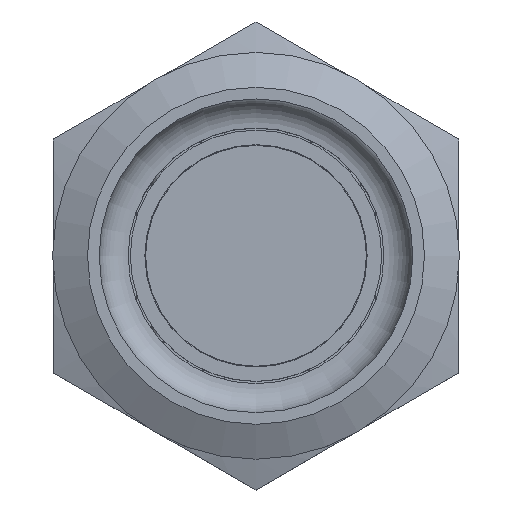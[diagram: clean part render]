
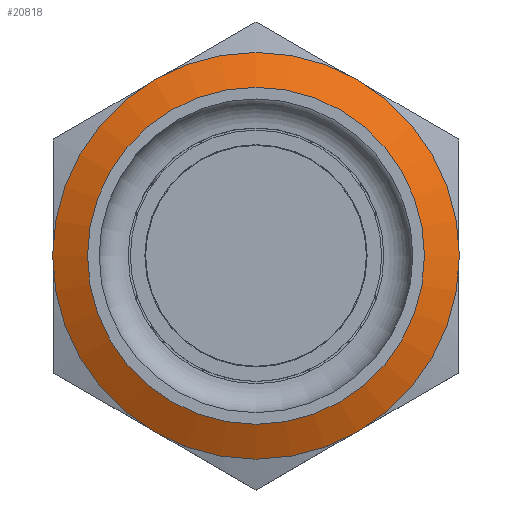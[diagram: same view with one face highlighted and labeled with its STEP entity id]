
A CAD part, top view. The second image highlights one B-rep face of the part: STEP entity #20818.
In plain terms, the highlighted conical face has half-angle 63.435 degrees and reference radius 14 mm.
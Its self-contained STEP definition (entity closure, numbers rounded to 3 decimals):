
#738=CONICAL_SURFACE('',#24222,14.,63.435);
#1482=CIRCLE('',#24219,14.);
#1483=CIRCLE('',#24221,11.6);
#3550=EDGE_LOOP('',(#5915));
#3551=EDGE_LOOP('',(#5916));
#5915=ORIENTED_EDGE('',*,*,#10724,.T.);
#5916=ORIENTED_EDGE('',*,*,#10723,.F.);
#10723=EDGE_CURVE('',#22256,#22256,#1482,.T.);
#10724=EDGE_CURVE('',#22257,#22257,#1483,.T.);
#20818=ADVANCED_FACE('',(#21592,#21593),#738,.T.);
#21592=FACE_BOUND('',#3550,.T.);
#21593=FACE_BOUND('',#3551,.T.);
#22256=VERTEX_POINT('',#35551);
#22257=VERTEX_POINT('',#35554);
#24219=AXIS2_PLACEMENT_3D('',#35550,#26644,#26645);
#24221=AXIS2_PLACEMENT_3D('',#35553,#26648,#26649);
#24222=AXIS2_PLACEMENT_3D('',#35555,#26650,#26651);
#26644=DIRECTION('',(0.,0.,-1.));
#26645=DIRECTION('',(-1.,0.,0.));
#26648=DIRECTION('',(0.,0.,-1.));
#26649=DIRECTION('',(-1.,0.,0.));
#26650=DIRECTION('',(0.,0.,-1.));
#26651=DIRECTION('',(-1.,0.,0.));
#35550=CARTESIAN_POINT('',(-1.739,0.1,25.2));
#35551=CARTESIAN_POINT('',(-15.739,0.1,25.2));
#35553=CARTESIAN_POINT('',(-1.739,0.1,26.4));
#35554=CARTESIAN_POINT('',(-13.339,0.1,26.4));
#35555=CARTESIAN_POINT('',(-1.739,0.1,25.2));
